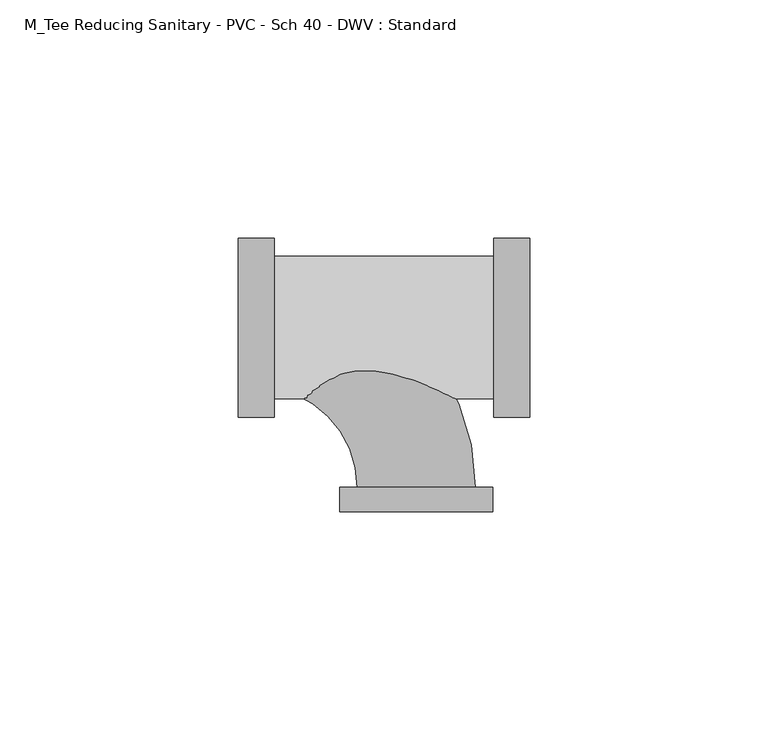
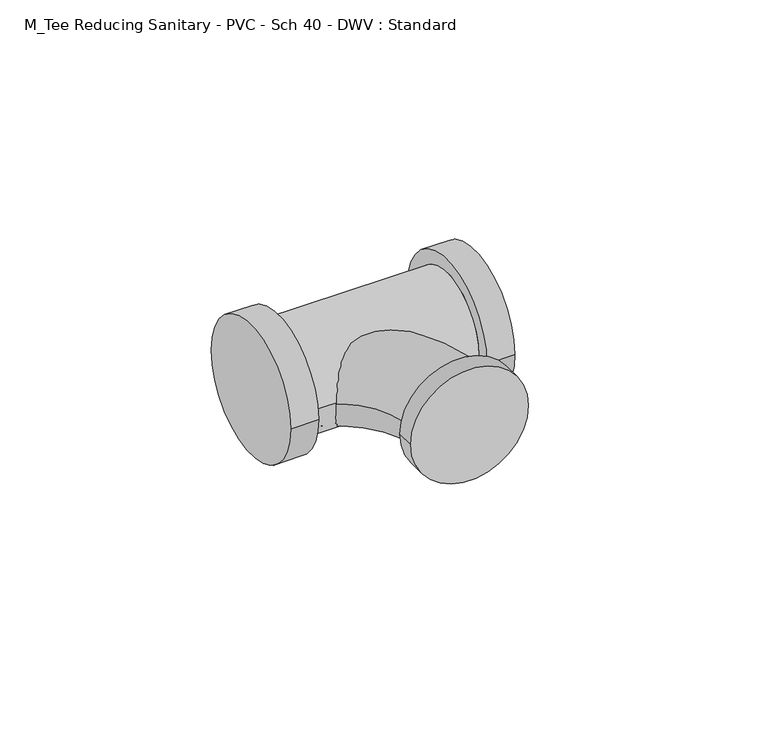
"""IFC4 building model written with IfcOpenShell, lengths in millimetres: pipe fitting geometry, M_Tee Reducing Sanitary - PVC - Sch 40 - DWV : Standard."""

import ifcopenshell
import ifcopenshell.guid

model = None  # the IFC model being written
_history = None  # IfcOwnerHistory: only IFC2X3 demands one
_inside = {}  # id of a spatial element -> (the spatial element, [elements in it])
_under = {}  # id of a project, library or spatial element -> (it, [spatial elements below it])
_declared = {}  # id of a project -> (the project, [libraries it declares])
_typed = {}  # id of a type object -> (the type object, [elements of that type])
_made_of = {}  # id of a material, layer set ... -> (it, [elements and type objects made of it])


def new_model(schema):
    """Start an empty IFC model of exactly this schema.

    Asked for "IFC4X3", IfcOpenShell would pick the latest addendum, in which some entities
    have other attributes; the version numbers below select the first issue.
    IFC2X3 requires an IfcOwnerHistory on every rooted entity: one is made here for all.
    """
    global model, _history
    if schema == "IFC4X3":
        model = ifcopenshell.file(schema_version=(4, 3, 0, 0))
    else:
        model = ifcopenshell.file(schema=schema)
    _inside.clear()
    _under.clear()
    _declared.clear()
    _typed.clear()
    _made_of.clear()
    _history = None
    if model.schema == "IFC2X3":
        org = make("IfcOrganization", Name="unknown")
        user = make(
            "IfcPersonAndOrganization",
            ThePerson=make("IfcPerson", FamilyName="unknown"),
            TheOrganization=org,
        )
        app = make(
            "IfcApplication",
            ApplicationDeveloper=org,
            Version="unknown",
            ApplicationFullName="unknown",
            ApplicationIdentifier="unknown",
        )
        _history = make(
            "IfcOwnerHistory",
            OwningUser=user,
            OwningApplication=app,
            ChangeAction="ADDED",
            CreationDate=0,
        )
    return model


def make(cls, **values):
    """One entity of the class cls with the attributes given. An attribute that is None is left unset."""
    return model.create_entity(
        cls, **{name: value for name, value in values.items() if value is not None}
    )


def rooted(cls, **values):
    """An entity with a GlobalId (a new one), such as an element, a storey or a relation."""
    return make(cls, GlobalId=ifcopenshell.guid.new(), OwnerHistory=_history, **values)


def si_unit(unit_type, name, prefix=None):
    """IfcSIUnit, for example si_unit("LENGTHUNIT", "METRE", prefix="MILLI")."""
    return make("IfcSIUnit", UnitType=unit_type, Prefix=prefix, Name=name)


def assignment(units):
    """IfcUnitAssignment: the units of a project."""
    return None if units is None else make("IfcUnitAssignment", Units=units)


def point(xyz):
    """IfcCartesianPoint."""
    return None if xyz is None else make("IfcCartesianPoint", Coordinates=xyz)


def direction(xyz):
    """IfcDirection."""
    return None if xyz is None else make("IfcDirection", DirectionRatios=xyz)


def frame(location, z_axis=None, x_axis=None):
    """IfcAxis2Placement3D, a coordinate frame: its origin and axes. An axis left out is left unset."""
    return make(
        "IfcAxis2Placement3D",
        Location=point(location),
        Axis=direction(z_axis),
        RefDirection=direction(x_axis),
    )


def origin():
    """The frame at (0, 0, 0) with its axes left unset."""
    return frame((0.0, 0.0, 0.0))


def place(relative_to, where):
    """IfcLocalPlacement: puts the frame where relative to a parent placement (None: the world)."""
    return make(
        "IfcLocalPlacement", PlacementRelTo=relative_to, RelativePlacement=where
    )


def context(
    kind, dimensions, precision=None, world=None, true_north=None, identifier=None
):
    """IfcGeometricRepresentationContext, for example the 3D "Model" context."""
    return make(
        "IfcGeometricRepresentationContext",
        ContextIdentifier=identifier,
        ContextType=kind,
        CoordinateSpaceDimension=dimensions,
        Precision=precision,
        WorldCoordinateSystem=world,
        TrueNorth=true_north,
    )


def project(units=None, contexts=None):
    """IfcProject with its units and contexts."""
    return rooted(
        "IfcProject",
        Name="project",
        RepresentationContexts=contexts,
        UnitsInContext=assignment(units),
    )


def spatial(cls, under=None, at=None, **own):
    """A site, building, storey or space (cls), placed at a placement, below another one or the project."""
    s = rooted(cls, ObjectPlacement=at, **own)
    if under is not None:
        _under.setdefault(under.id(), (under, []))[1].append(s)
    return s


def circle_curve(where, radius):
    """IfcCircle in the frame where."""
    return make("IfcCircle", Position=where, Radius=radius)


def ellipse_curve(where, semi_axis1, semi_axis2):
    """IfcEllipse in the frame where."""
    return make(
        "IfcEllipse", Position=where, SemiAxis1=semi_axis1, SemiAxis2=semi_axis2
    )


def trimmed(basis, trim1, trim2, sense, master):
    """IfcTrimmedCurve: the piece of a basis curve between two trims."""
    return make(
        "IfcTrimmedCurve",
        BasisCurve=basis,
        Trim1=trim1,
        Trim2=trim2,
        SenseAgreement=sense,
        MasterRepresentation=master,
    )


def shape(context_of_items, identifier, shape_type, items):
    """IfcShapeRepresentation: the items that make up one representation, for example the "Body"."""
    return make(
        "IfcShapeRepresentation",
        ContextOfItems=context_of_items,
        RepresentationIdentifier=identifier,
        RepresentationType=shape_type,
        Items=items,
    )


def source(mapping_origin, context_of_items, identifier, shape_type, items):
    """IfcRepresentationMap: a shape defined once, which mapped items show again and again."""
    return make(
        "IfcRepresentationMap",
        MappingOrigin=mapping_origin,
        MappedRepresentation=shape(context_of_items, identifier, shape_type, items),
    )


def transform(
    local_origin,
    x_axis=None,
    y_axis=None,
    z_axis=None,
    scale=None,
    scale2=None,
    scale3=None,
    uniform=True,
):
    """IfcCartesianTransformationOperator3D, or its non-uniform kind. x_axis, y_axis, z_axis: its Axis1, 2, 3."""
    if uniform:
        return make(
            "IfcCartesianTransformationOperator3D",
            Axis1=direction(x_axis),
            Axis2=direction(y_axis),
            LocalOrigin=point(local_origin),
            Scale=scale,
            Axis3=direction(z_axis),
        )
    return make(
        "IfcCartesianTransformationOperator3DnonUniform",
        Axis1=direction(x_axis),
        Axis2=direction(y_axis),
        LocalOrigin=point(local_origin),
        Scale=scale,
        Axis3=direction(z_axis),
        Scale2=scale2,
        Scale3=scale3,
    )


def mapped(mapping_source, mapping_target):
    """IfcMappedItem: shows the shape of a source again, moved by a transform."""
    return make(
        "IfcMappedItem", MappingSource=mapping_source, MappingTarget=mapping_target
    )


def made_of(thing, what):
    """Note that an element or type object is made of a material, layer set ...; save() writes the relation."""
    if what is not None:
        _made_of.setdefault(what.id(), (what, []))[1].append(thing)
    return thing


def element(
    cls,
    number,
    at=None,
    inside=None,
    cuts=None,
    type_object=None,
    material=None,
    context=None,
    identifier="Body",
    shape_type=None,
    held_by="IfcProductDefinitionShape",
    body=None,
    shapes=None,
    **own,
):
    """One element of the class cls, such as IfcWall. Its Tag is "e" and its number.

    at: its placement. inside: the storey or other place that contains it. cuts: it is an
    opening in that element (IfcRelVoidsElement). A single representation is given by context,
    identifier, shape_type and body (its items); several are given by shapes. held_by: the class
    of the entity that holds the representations. save() writes the other relations.
    """
    e = rooted(cls, Tag="e%d" % number, ObjectPlacement=at, **own)
    if body is not None:
        shapes = [shape(context, identifier, shape_type, body)]
    if shapes is not None:
        e.Representation = make(held_by, Representations=shapes)
    if inside is not None:
        _inside.setdefault(inside.id(), (inside, []))[1].append(e)
    if cuts is not None:
        rooted(
            "IfcRelVoidsElement", RelatingBuildingElement=cuts, RelatedOpeningElement=e
        )
    if type_object is not None:
        _typed.setdefault(type_object.id(), (type_object, []))[1].append(e)
    return made_of(e, material)


def aggregate(whole, parts):
    """IfcRelAggregates: a whole, such as a stair, and the parts it consists of."""
    return rooted("IfcRelAggregates", RelatingObject=whole, RelatedObjects=parts)


def save(model, path):
    """Write the relations noted so far, then the file.

    IfcRelAggregates (storeys below a building ...), IfcRelContainedInSpatialStructure (elements
    in a storey), IfcRelDefinesByType, IfcRelAssociatesMaterial and IfcRelDeclares: one each for
    every whole, place, type object, material and project.
    """
    for whole, parts in _under.values():
        aggregate(whole, parts)
    for where, things in _inside.values():
        rooted(
            "IfcRelContainedInSpatialStructure",
            RelatedElements=things,
            RelatingStructure=where,
        )
    for kind, things in _typed.values():
        rooted("IfcRelDefinesByType", RelatedObjects=things, RelatingType=kind)
    for what, things in _made_of.values():
        rooted("IfcRelAssociatesMaterial", RelatedObjects=things, RelatingMaterial=what)
    for by, libraries in _declared.values():
        rooted("IfcRelDeclares", RelatingContext=by, RelatedDefinitions=libraries)
    model.write(path)


def plane_surface(at):
    """IfcPlane: the flat surface through the origin of the frame at, square to its z axis."""
    return make("IfcPlane", Position=at)


def cylinder_surface(at, radius):
    """IfcCylindricalSurface: all points at the distance radius from the z axis of the frame at."""
    return make("IfcCylindricalSurface", Position=at, Radius=radius)


def revolved_surface(curve, axis_point, axis_direction):
    """IfcSurfaceOfRevolution: the curve turned about the line through axis_point along axis_direction."""
    return make(
        "IfcSurfaceOfRevolution",
        SweptCurve=make("IfcArbitraryOpenProfileDef", ProfileType="CURVE", Curve=curve),
        AxisPosition=make("IfcAxis1Placement", Location=point(axis_point), Axis=direction(axis_direction)),
    )


def advanced_brep(points, edges, surfaces, faces):
    """IfcAdvancedBrep: a solid bounded by faces that lie on surfaces and meet in shared edges.

    An edge is (start, end): straight between two places in points (the first is 0);
    or (start, end, curve); or (start, end, curve, False) where it runs against its curve.
    A face is (place in surfaces, loops), or (place, loops, False) where it looks against
    its surface's normal. A loop lists edges by number (the first is 1), with a minus sign
    where the edge is run from its end to its start. The first loop is the outer one.
    """
    corners = [point(p) for p in points]
    vertices = [make("IfcVertexPoint", VertexGeometry=c) for c in corners]
    made = []
    for start, end, *more in edges:
        made.append(
            make(
                "IfcEdgeCurve",
                EdgeStart=vertices[start],
                EdgeEnd=vertices[end],
                EdgeGeometry=more[0] if more else make("IfcPolyline", Points=[corners[start], corners[end]]),
                SameSense=more[1] if len(more) > 1 else True,
            )
        )
    hull = []
    for where, loops, *sense in faces:
        bounds = []
        for j, loop in enumerate(loops):
            ring = [make("IfcOrientedEdge", EdgeElement=made[abs(k) - 1], Orientation=k > 0) for k in loop]
            bounds.append(
                make(
                    "IfcFaceOuterBound" if j == 0 else "IfcFaceBound",
                    Bound=make("IfcEdgeLoop", EdgeList=ring),
                    Orientation=True,
                )
            )
        hull.append(make("IfcAdvancedFace", Bounds=bounds, FaceSurface=surfaces[where], SameSense=sense[0] if sense else True))
    return make("IfcAdvancedBrep", Outer=make("IfcClosedShell", CfsFaces=hull))


def m_tee_reducing_sanitary_pvc_sch_40_dwv_standard_82d335f6(model_context):
    return source(origin(), model_context, "Body", "AdvancedBrep", [
        advanced_brep(
        [(16.216925, -18.7871094, 0.0), (16.216925, 18.7871094, 0.0), (16.216925, -14.9640625, 0.0), (16.216925, 14.9640625, 0.0), (23.8372375, -18.7871094, 0.0), (23.8372375, 18.7871094, 0.0), (-29.7851062, 14.9640625, 0.0), (-29.7851062, -14.9640625, 0.0), (-37.4054187, -18.7871094, 0.0), (-37.4054187, 18.7871094, 0.0), (-29.7851062, -18.7871094, 0.0), (-29.7851062, 18.7871094, 0.0)],
        [
            (0, 1, circle_curve(frame((16.216925, 0.0, 0.0), z_axis=(-1.0, 0.0, 0.0), x_axis=(0.0, 1.0, 0.0)), 18.7871094)),
            (1, 0, circle_curve(frame((16.216925, 0.0, 0.0), z_axis=(-1.0, 0.0, 0.0), x_axis=(0.0, 1.0, 0.0)), 18.7871094)),
            (2, 3, circle_curve(frame((16.216925, 0.0, 0.0), z_axis=(1.0, 0.0, 0.0), x_axis=(0.0, 0.0, -1.0)), 14.9640625)),
            (3, 2, circle_curve(frame((16.216925, 0.0, 0.0), z_axis=(1.0, 0.0, 0.0), x_axis=(0.0, 0.0, 1.0)), 14.9640625)),
            (4, 5, circle_curve(frame((23.8372375, 0.0, 0.0), z_axis=(1.0, 0.0, 0.0), x_axis=(0.0, 1.0, 0.0)), 18.7871094)),
            (5, 4, circle_curve(frame((23.8372375, 0.0, 0.0), z_axis=(1.0, 0.0, 0.0), x_axis=(0.0, 1.0, 0.0)), 18.7871094)),
            (0, 4),
            (5, 1),
            (6, 3),
            (2, 7),
            (7, 6, circle_curve(frame((-29.7851062, 0.0, 0.0), z_axis=(1.0, 0.0, 0.0), x_axis=(0.0, 0.0, -1.0)), 14.9640625)),
            (6, 7, circle_curve(frame((-29.7851062, 0.0, 0.0), z_axis=(1.0, 0.0, 0.0), x_axis=(0.0, 0.0, 1.0)), 14.9640625)),
            (8, 9, circle_curve(frame((-37.4054187, 0.0, 0.0), z_axis=(-1.0, 0.0, 0.0), x_axis=(0.0, 1.0, 0.0)), 18.7871094)),
            (9, 8, circle_curve(frame((-37.4054187, 0.0, 0.0), z_axis=(-1.0, 0.0, 0.0), x_axis=(0.0, 1.0, 0.0)), 18.7871094)),
            (10, 11, circle_curve(frame((-29.7851062, 0.0, 0.0), z_axis=(1.0, 0.0, 0.0), x_axis=(0.0, 1.0, 0.0)), 18.7871094)),
            (11, 10, circle_curve(frame((-29.7851062, 0.0, 0.0), z_axis=(1.0, 0.0, 0.0), x_axis=(0.0, 1.0, 0.0)), 18.7871094)),
            (8, 10),
            (11, 9),
        ],
        [
            plane_surface(frame((16.216925, 0.0, 0.0), z_axis=(-1.0, 0.0, 0.0), x_axis=(0.0, 0.0, 1.0))),
            plane_surface(frame((23.8372375, 0.0, 0.0), z_axis=(1.0, 0.0, 0.0), x_axis=(0.0, 0.0, 1.0))),
            cylinder_surface(frame((16.216925, 0.0, 0.0), z_axis=(-1.0, 0.0, 0.0), x_axis=(0.0, 1.0, 0.0)), 18.7871094),
            cylinder_surface(frame((-29.7851062, 0.0, 0.0), z_axis=(1.0, 0.0, 0.0), x_axis=(0.0, 0.0, -1.0)), 14.9640625),
            cylinder_surface(frame((-29.7851062, 0.0, 0.0), z_axis=(1.0, 0.0, 0.0), x_axis=(0.0, 0.0, 1.0)), 14.9640625),
            plane_surface(frame((-37.4054187, 0.0, 0.0), z_axis=(-1.0, 0.0, 0.0), x_axis=(0.0, 0.0, 1.0))),
            plane_surface(frame((-29.7851062, 0.0, 0.0), z_axis=(1.0, 0.0, 0.0), x_axis=(0.0, 0.0, 1.0))),
            cylinder_surface(frame((-37.4054187, 0.0, 0.0), z_axis=(-1.0, 0.0, 0.0), x_axis=(0.0, 1.0, 0.0)), 18.7871094),
        ],
        [
            (0, [[1, 2], [3, 4]]),
            (1, [[5, 6]]),
            (2, [[-1, 7, -6, 8]]),
            (2, [[-2, -8, -5, -7]]),
            (3, [[9, -3, 10, 11]]),
            (4, [[-9, 12, -10, -4]]),
            (5, [[13, 14]]),
            (6, [[15, 16], [-11, -12]]),
            (7, [[-13, 17, -16, 18]]),
            (7, [[-14, -18, -15, -17]]),
        ],
    ),
        advanced_brep(
        [(-16.0871094, -33.5476563, 0.0), (16.0871094, -33.5476563, 0.0), (12.3640625, -33.5476563, 0.0), (-12.3640625, -33.5476563, 0.0), (-16.0871094, -38.6179688, 0.0), (16.0871094, -38.6179688, 0.0), (-33.5476562, -12.3640625, 0.0), (-33.5476562, 12.3640625, 0.0)],
        [
            (0, 1, circle_curve(frame((0.0, -33.5476563, 0.0), z_axis=(0.0, 1.0, 0.0), x_axis=(1.0, 0.0, 0.0)), 16.0871094)),
            (1, 0, circle_curve(frame((0.0, -33.5476563, 0.0), z_axis=(0.0, 1.0, 0.0), x_axis=(1.0, 0.0, 0.0)), 16.0871094)),
            (2, 3, circle_curve(frame((0.0, -33.5476563, 0.0), z_axis=(0.0, -1.0, 0.0), x_axis=(1.0, 0.0, 0.0)), 12.3640625)),
            (3, 2, circle_curve(frame((0.0, -33.5476563, 0.0), z_axis=(0.0, -1.0, 0.0), x_axis=(1.0, 0.0, 0.0)), 12.3640625)),
            (4, 5, circle_curve(frame((0.0, -38.6179688, 0.0), z_axis=(0.0, -1.0, 0.0), x_axis=(1.0, 0.0, 0.0)), 16.0871094)),
            (5, 4, circle_curve(frame((0.0, -38.6179688, 0.0), z_axis=(0.0, -1.0, 0.0), x_axis=(1.0, 0.0, 0.0)), 16.0871094)),
            (0, 4),
            (5, 1),
            (6, 7, circle_curve(frame((-33.5476562, 0.0, 0.0), z_axis=(-1.0, 0.0, 0.0), x_axis=(0.0, 1.0, 0.0)), 12.3640625)),
            (7, 6, circle_curve(frame((-33.5476562, 0.0, 0.0), z_axis=(-1.0, 0.0, 0.0), x_axis=(0.0, 1.0, 0.0)), 12.3640625)),
            (6, 3, circle_curve(frame((-33.5476562, -33.5476563, 0.0), z_axis=(0.0, 0.0, -1.0), x_axis=(0.0, 1.0, 0.0)), 21.1835938)),
            (2, 7, circle_curve(frame((-33.5476562, -33.5476563, 0.0), z_axis=(0.0, 0.0, 1.0), x_axis=(0.0, 1.0, 0.0)), 45.9117188)),
        ],
        [
            plane_surface(frame((0.0, -33.5476563, 0.0), z_axis=(0.0, 1.0, 0.0), x_axis=(0.0, 0.0, 1.0))),
            plane_surface(frame((0.0, -38.6179688, 0.0), z_axis=(0.0, -1.0, 0.0), x_axis=(0.0, 0.0, 1.0))),
            cylinder_surface(frame((0.0, -33.5476563, 0.0), z_axis=(0.0, 1.0, 0.0), x_axis=(1.0, 0.0, 0.0)), 16.0871094),
            plane_surface(frame((-33.5476562, 0.0, 0.0), z_axis=(-1.0, 0.0, 0.0), x_axis=(0.0, 0.0, 1.0))),
            revolved_surface(trimmed(ellipse_curve(frame((-33.5476562, 0.0, 0.0), z_axis=(-1.0, 0.0, 0.0), x_axis=(0.0, 1.0, 0.0)), 12.3640625, 12.3640625), [point((-33.5476562, -12.3640625, 0.0))], [point((-33.5476562, 12.3640625, 0.0))], True, "CARTESIAN"), (-33.5476562, -33.5476563, 0.0), (0.0, 0.0, -1.0)),
            revolved_surface(trimmed(ellipse_curve(frame((-33.5476562, 0.0, 0.0), z_axis=(-1.0, 0.0, 0.0), x_axis=(0.0, 1.0, 0.0)), 12.3640625, 12.3640625), [point((-33.5476562, 12.3640625, 0.0))], [point((-33.5476562, -12.3640625, 0.0))], True, "CARTESIAN"), (-33.5476562, -33.5476563, 0.0), (0.0, 0.0, -1.0)),
        ],
        [
            (0, [[1, 2], [3, 4]]),
            (1, [[5, 6]]),
            (2, [[-1, 7, -6, 8]]),
            (2, [[-2, -8, -5, -7]]),
            (3, [[9, 10]]),
            (4, [[-9, 11, -3, 12]]),
            (5, [[-10, -12, -4, -11]]),
        ],
    ),
    ])


if __name__ == "__main__":
    model = new_model("IFC4")
    model_context = context("Model", 3, world=origin())
    ifc_project = project(units=[si_unit("LENGTHUNIT", "METRE", prefix="MILLI")], contexts=[model_context])
    site = spatial("IfcSite", under=ifc_project)
    building = spatial("IfcBuilding", under=site)
    placement = place(None, origin())
    m_tee_reducing_sanitary_pvc_sch_40_dwv_standard_shape = m_tee_reducing_sanitary_pvc_sch_40_dwv_standard_82d335f6(model_context)
    element("IfcPipeFitting", 1, ObjectType="M_Tee Reducing Sanitary - PVC - Sch 40 - DWV : Standard", at=placement, inside=building, context=model_context, shape_type="MappedRepresentation", body=[
        mapped(m_tee_reducing_sanitary_pvc_sch_40_dwv_standard_shape, transform((0.0, 0.0, 0.0), x_axis=(1.0, 0.0, 0.0), y_axis=(0.0, 1.0, 0.0), z_axis=(0.0, 0.0, 1.0))),
    ])
    save(model, "model.ifc")
